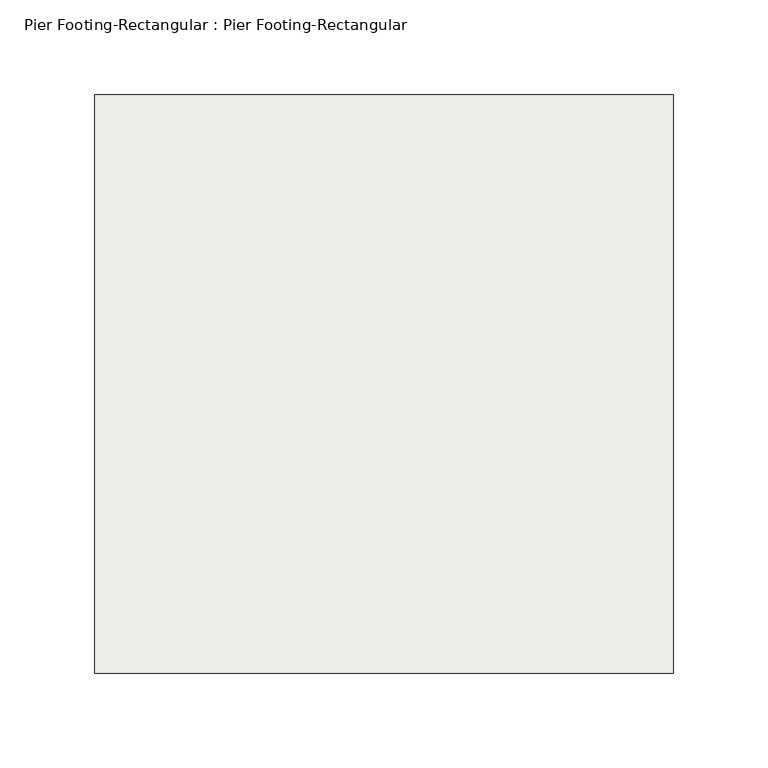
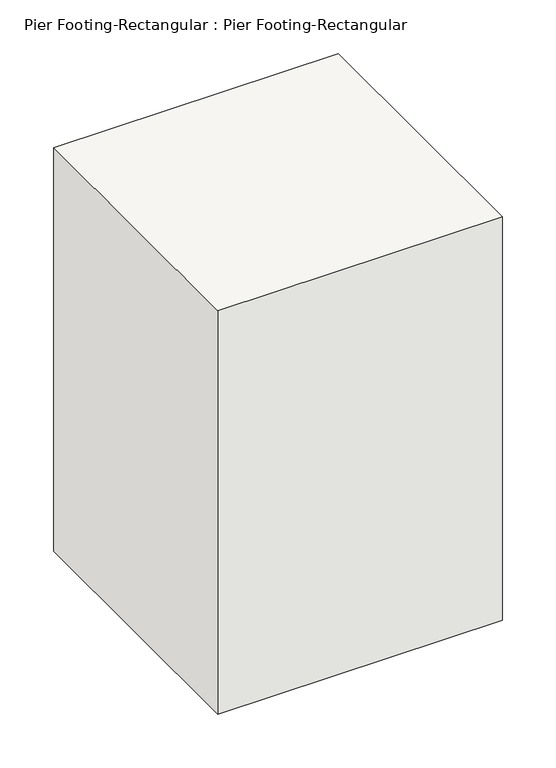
"""IFC4 building model written with IfcOpenShell, lengths in millimetres: slab geometry, Pier Footing-Rectangular : Pier Footing-Rectangular."""

from ifc_helpers import new_model, si_unit, origin, place, context, project, spatial, faceted_brep, source, transform, mapped, element, save


def pier_footing_rectangular_pier_footing_rectangular_bd349e68(model_context):
    return source(origin(), model_context, "Body", "Brep", [
        faceted_brep([(551.5321363, 402.0987726, -660.4), (856.3321363, 402.0987726, -660.4), (856.3321363, 97.2987726, -660.4), (551.5321363, 97.2987726, -660.4), (551.5321363, 402.0987726, -203.2), (551.5321363, 97.2987726, -203.2), (856.3321363, 97.2987726, -203.2), (856.3321363, 402.0987726, -203.2), (551.5321363, 402.0987726, -558.8), (551.5321363, 97.2987726, -558.8), (856.3321363, 97.2987726, -558.8)], [[[0, 1, 2, 3]], [[4, 5, 6, 7]], [[5, 4, 8, 0, 3, 9]], [[6, 5, 9, 3, 2, 10]], [[7, 6, 10, 2, 1]], [[4, 7, 1, 0, 8]]]),
    ])


if __name__ == "__main__":
    model = new_model("IFC4")
    model_context = context("Model", 3, world=origin())
    ifc_project = project(units=[si_unit("LENGTHUNIT", "METRE", prefix="MILLI")], contexts=[model_context])
    site = spatial("IfcSite", under=ifc_project)
    building = spatial("IfcBuilding", under=site)
    placement = place(None, origin())
    pier_footing_rectangular_pier_footing_rectangular_shape = pier_footing_rectangular_pier_footing_rectangular_bd349e68(model_context)
    element("IfcSlab", 1, ObjectType="Pier Footing-Rectangular : Pier Footing-Rectangular", at=placement, inside=building, context=model_context, shape_type="MappedRepresentation", body=[
        mapped(pier_footing_rectangular_pier_footing_rectangular_shape, transform((0.0, 0.0, 0.0), x_axis=(1.0, 0.0, 0.0), y_axis=(0.0, 1.0, 0.0), z_axis=(0.0, 0.0, 1.0))),
    ])
    save(model, "model.ifc")
